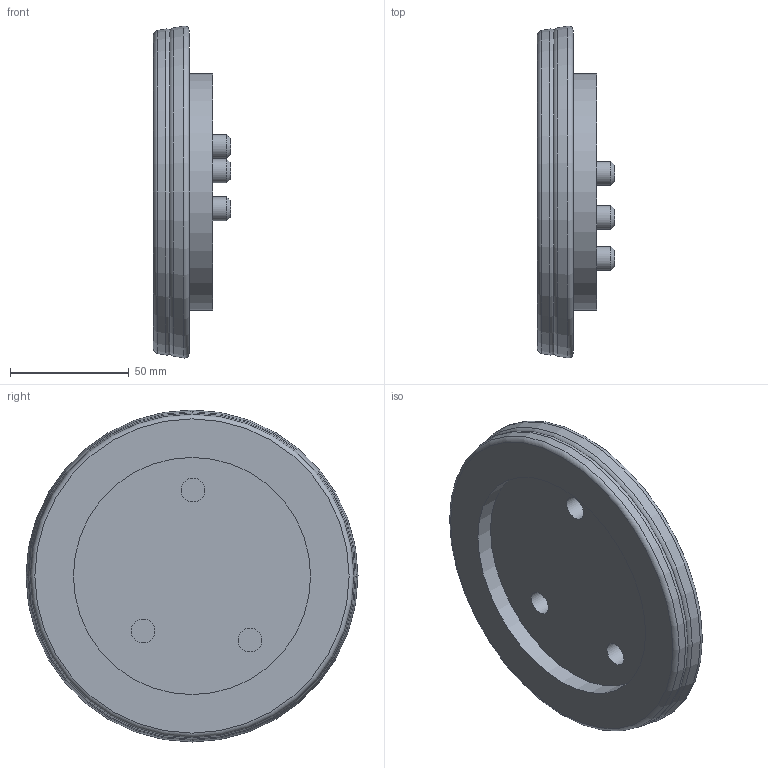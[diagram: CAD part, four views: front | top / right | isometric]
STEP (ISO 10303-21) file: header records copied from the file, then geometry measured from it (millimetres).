
FILE_DESCRIPTION(/* description */ (''),/* implementation_level */ '2;1');
FILE_NAME(/* name */ 'Mid-Left.step',/* time_stamp */ '2024-01-09T11:40:18-05:00',/* author */ (''),/* organization */ (''),/* preprocessor_version */ 'ST-DEVELOPER v20',/* originating_system */ 'Autodesk Translation Framework v12.14.0.127',/* authorisation */ '');
FILE_SCHEMA (('AUTOMOTIVE_DESIGN { 1 0 10303 214 3 1 1 }'));
Length unit declared in the file: millimetre
Products named in the file (1): Mid-Left
Bounding box: 32.5 x 139.96 x 139.96 mm (x, y, z)
Volume: 243192.9 mm3; surface area: 42797.4 mm2
Topology: 1 solids, 1 shells, 27 faces, 43 edges, 26 vertices
Faces by surface type: plane 10, cylinder 8, cone 5, torus 4
Full cylindrical faces by diameter (mm): 10 x6, 100 x2
Entity records: 663 total; most frequent: DIRECTION 129, CARTESIAN_POINT 97, ORIENTED_EDGE 86, AXIS2_PLACEMENT_3D 58, EDGE_CURVE 43, EDGE_LOOP 35, CIRCLE 30, FACE_OUTER_BOUND 27
